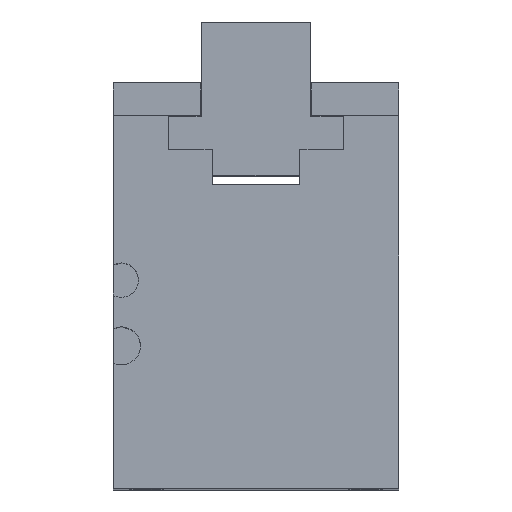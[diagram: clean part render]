
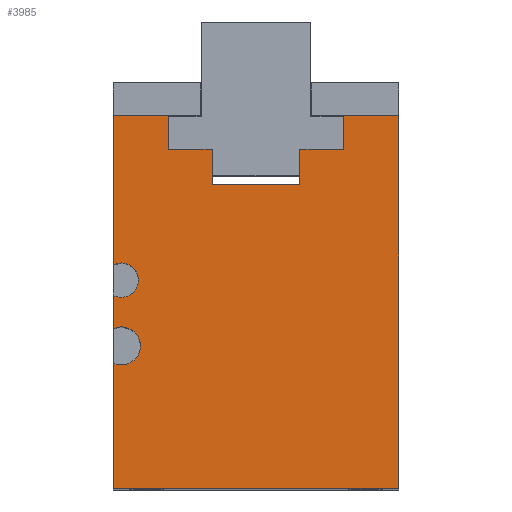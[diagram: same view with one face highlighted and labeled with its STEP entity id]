
A CAD part, top view. The second image highlights one B-rep face of the part: STEP entity #3985.
In plain terms, the highlighted planar face has unit normal (0, 0, 1).
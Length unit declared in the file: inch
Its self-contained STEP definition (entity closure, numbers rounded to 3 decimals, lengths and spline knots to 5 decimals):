
#84 = DIRECTION ( 'NONE',  ( 0., -1., 0. ) ) ;
#87 = VERTEX_POINT ( 'NONE', #643 ) ;
#109 = ORIENTED_EDGE ( 'NONE', *, *, #804, .T. ) ;
#117 = EDGE_CURVE ( 'NONE', #2581, #285, #5005, .T. ) ;
#172 = VECTOR ( 'NONE', #5142, 39.37008 ) ;
#175 = CARTESIAN_POINT ( 'NONE',  ( 0.045, 0.8125, 0. ) ) ;
#222 = ORIENTED_EDGE ( 'NONE', *, *, #424, .T. ) ;
#251 = AXIS2_PLACEMENT_3D ( 'NONE', #2384, #4522, #4468 ) ;
#259 = AXIS2_PLACEMENT_3D ( 'NONE', #4287, #1878, #4684 ) ;
#284 = CIRCLE ( 'NONE', #3650, 0.10848 ) ;
#285 = VERTEX_POINT ( 'NONE', #3842 ) ;
#312 = VERTEX_POINT ( 'NONE', #3535 ) ;
#359 = CARTESIAN_POINT ( 'NONE',  ( 0., 0.71379, 0. ) ) ;
#361 = EDGE_CURVE ( 'NONE', #5003, #551, #3791, .T. ) ;
#424 = EDGE_CURVE ( 'NONE', #2958, #2407, #1176, .T. ) ;
#527 = CARTESIAN_POINT ( 'NONE',  ( 1.0625, 1.935, 0. ) ) ;
#551 = VERTEX_POINT ( 'NONE', #2442 ) ;
#565 = DIRECTION ( 'NONE',  ( -1., 0., 0. ) ) ;
#569 = CARTESIAN_POINT ( 'NONE',  ( 0.3125, 2.125, 0. ) ) ;
#595 = VECTOR ( 'NONE', #2717, 39.37008 ) ;
#622 = DIRECTION ( 'NONE',  ( 0., 0., -1. ) ) ;
#643 = CARTESIAN_POINT ( 'NONE',  ( 1.0625, 1.735, 0. ) ) ;
#704 = CARTESIAN_POINT ( 'NONE',  ( 0.3125, 1.935, 0. ) ) ;
#717 = EDGE_CURVE ( 'NONE', #551, #2585, #3170, .T. ) ;
#804 = EDGE_CURVE ( 'NONE', #312, #1319, #2891, .T. ) ;
#992 = VERTEX_POINT ( 'NONE', #4417 ) ;
#1086 = EDGE_LOOP ( 'NONE', ( #4313, #1305, #3034, #222, #2819, #2897, #3676, #2948, #5071, #1586, #2335, #3194, #2989, #5140, #1189, #4113, #109, #1639 ) ) ;
#1171 = VERTEX_POINT ( 'NONE', #5159 ) ;
#1176 = LINE ( 'NONE', #3653, #3161 ) ;
#1189 = ORIENTED_EDGE ( 'NONE', *, *, #117, .T. ) ;
#1207 = LINE ( 'NONE', #527, #4385 ) ;
#1254 = CARTESIAN_POINT ( 'NONE',  ( 0., 0., 0. ) ) ;
#1305 = ORIENTED_EDGE ( 'NONE', *, *, #1511, .T. ) ;
#1309 = VECTOR ( 'NONE', #1691, 39.37008 ) ;
#1319 = VERTEX_POINT ( 'NONE', #2939 ) ;
#1349 = DIRECTION ( 'NONE',  ( 0., -1., 0. ) ) ;
#1416 = VECTOR ( 'NONE', #3886, 39.37008 ) ;
#1511 = EDGE_CURVE ( 'NONE', #992, #1171, #4736, .T. ) ;
#1576 = CARTESIAN_POINT ( 'NONE',  ( 0., 0., 0. ) ) ;
#1586 = ORIENTED_EDGE ( 'NONE', *, *, #2492, .F. ) ;
#1596 = LINE ( 'NONE', #1823, #2282 ) ;
#1639 = ORIENTED_EDGE ( 'NONE', *, *, #4128, .T. ) ;
#1667 = CARTESIAN_POINT ( 'NONE',  ( 0.3125, 1.935, 0. ) ) ;
#1681 = VERTEX_POINT ( 'NONE', #4162 ) ;
#1691 = DIRECTION ( 'NONE',  ( 0., 1., 0. ) ) ;
#1744 = VECTOR ( 'NONE', #2012, 39.37008 ) ;
#1772 = DIRECTION ( 'NONE',  ( -1., 0., 0. ) ) ;
#1774 = CARTESIAN_POINT ( 'NONE',  ( 0., 0., 0. ) ) ;
#1795 = EDGE_CURVE ( 'NONE', #2746, #1681, #1596, .T. ) ;
#1823 = CARTESIAN_POINT ( 'NONE',  ( 0., 2.125, 0. ) ) ;
#1867 = FACE_OUTER_BOUND ( 'NONE', #1086, .T. ) ;
#1877 = LINE ( 'NONE', #1576, #3894 ) ;
#1878 = DIRECTION ( 'NONE',  ( 0., 0., -1. ) ) ;
#1925 = VECTOR ( 'NONE', #4997, 39.37008 ) ;
#1948 = EDGE_CURVE ( 'NONE', #285, #312, #3018, .T. ) ;
#1955 = VERTEX_POINT ( 'NONE', #3240 ) ;
#2012 = DIRECTION ( 'NONE',  ( 0., 1., 0. ) ) ;
#2026 = CARTESIAN_POINT ( 'NONE',  ( 0., 0., 0. ) ) ;
#2044 = DIRECTION ( 'NONE',  ( 1., 0., 0. ) ) ;
#2085 = DIRECTION ( 'NONE',  ( 1., 0., 0. ) ) ;
#2180 = PLANE ( 'NONE',  #2198 ) ;
#2198 = AXIS2_PLACEMENT_3D ( 'NONE', #1774, #622, #3399 ) ;
#2282 = VECTOR ( 'NONE', #1772, 39.37008 ) ;
#2335 = ORIENTED_EDGE ( 'NONE', *, *, #2397, .F. ) ;
#2349 = LINE ( 'NONE', #4081, #1309 ) ;
#2384 = CARTESIAN_POINT ( 'NONE',  ( 0.045, 1.1875, 0. ) ) ;
#2397 = EDGE_CURVE ( 'NONE', #2585, #87, #3811, .T. ) ;
#2407 = VERTEX_POINT ( 'NONE', #1254 ) ;
#2442 = CARTESIAN_POINT ( 'NONE',  ( 0.5625, 1.935, 0. ) ) ;
#2492 = EDGE_CURVE ( 'NONE', #87, #2830, #2349, .T. ) ;
#2564 = LINE ( 'NONE', #4725, #595 ) ;
#2581 = VERTEX_POINT ( 'NONE', #569 ) ;
#2583 = CARTESIAN_POINT ( 'NONE',  ( 0., 2.125, 0. ) ) ;
#2585 = VERTEX_POINT ( 'NONE', #4152 ) ;
#2686 = LINE ( 'NONE', #4415, #1744 ) ;
#2717 = DIRECTION ( 'NONE',  ( 1., 0., 0. ) ) ;
#2746 = VERTEX_POINT ( 'NONE', #3047 ) ;
#2819 = ORIENTED_EDGE ( 'NONE', *, *, #4739, .T. ) ;
#2830 = VERTEX_POINT ( 'NONE', #3115 ) ;
#2891 = CIRCLE ( 'NONE', #251, 0.09801 ) ;
#2897 = ORIENTED_EDGE ( 'NONE', *, *, #2975, .T. ) ;
#2920 = DIRECTION ( 'NONE',  ( 0., 0., -1. ) ) ;
#2939 = CARTESIAN_POINT ( 'NONE',  ( 0.14301, 1.1875, 0. ) ) ;
#2948 = ORIENTED_EDGE ( 'NONE', *, *, #5161, .F. ) ;
#2958 = VERTEX_POINT ( 'NONE', #359 ) ;
#2975 = EDGE_CURVE ( 'NONE', #5038, #2746, #4265, .T. ) ;
#2989 = ORIENTED_EDGE ( 'NONE', *, *, #361, .F. ) ;
#3003 = VERTEX_POINT ( 'NONE', #4344 ) ;
#3018 = LINE ( 'NONE', #2026, #3148 ) ;
#3034 = ORIENTED_EDGE ( 'NONE', *, *, #3912, .T. ) ;
#3047 = CARTESIAN_POINT ( 'NONE',  ( 1.625, 2.125, 0. ) ) ;
#3057 = EDGE_CURVE ( 'NONE', #1955, #992, #1877, .T. ) ;
#3115 = CARTESIAN_POINT ( 'NONE',  ( 1.0625, 1.935, 0. ) ) ;
#3129 = CARTESIAN_POINT ( 'NONE',  ( 0.3125, 2.125, 0. ) ) ;
#3148 = VECTOR ( 'NONE', #4834, 39.37008 ) ;
#3161 = VECTOR ( 'NONE', #84, 39.37008 ) ;
#3170 = LINE ( 'NONE', #4135, #3287 ) ;
#3194 = ORIENTED_EDGE ( 'NONE', *, *, #717, .F. ) ;
#3240 = CARTESIAN_POINT ( 'NONE',  ( 0., 1.10043, 0. ) ) ;
#3287 = VECTOR ( 'NONE', #1349, 39.37008 ) ;
#3384 = CIRCLE ( 'NONE', #259, 0.09801 ) ;
#3399 = DIRECTION ( 'NONE',  ( -1., 0., 0. ) ) ;
#3506 = AXIS2_PLACEMENT_3D ( 'NONE', #3781, #5002, #4945 ) ;
#3527 = CARTESIAN_POINT ( 'NONE',  ( 1.625, 0., 0. ) ) ;
#3535 = CARTESIAN_POINT ( 'NONE',  ( 0., 1.27457, 0. ) ) ;
#3650 = AXIS2_PLACEMENT_3D ( 'NONE', #175, #2920, #565 ) ;
#3653 = CARTESIAN_POINT ( 'NONE',  ( 0., 0., 0. ) ) ;
#3676 = ORIENTED_EDGE ( 'NONE', *, *, #1795, .T. ) ;
#3781 = CARTESIAN_POINT ( 'NONE',  ( 0.045, 0.8125, 0. ) ) ;
#3791 = LINE ( 'NONE', #704, #1416 ) ;
#3811 = LINE ( 'NONE', #4446, #3930 ) ;
#3842 = CARTESIAN_POINT ( 'NONE',  ( 0., 2.125, 0. ) ) ;
#3886 = DIRECTION ( 'NONE',  ( 1., 0., 0. ) ) ;
#3894 = VECTOR ( 'NONE', #4374, 39.37008 ) ;
#3912 = EDGE_CURVE ( 'NONE', #1171, #2958, #284, .T. ) ;
#3930 = VECTOR ( 'NONE', #2044, 39.37008 ) ;
#3933 = DIRECTION ( 'NONE',  ( 0., -1., 0. ) ) ;
#3942 = VECTOR ( 'NONE', #3933, 39.37008 ) ;
#3985 = ADVANCED_FACE ( 'NONE', ( #1867 ), #2180, .F. ) ;
#4063 = LINE ( 'NONE', #3129, #3942 ) ;
#4081 = CARTESIAN_POINT ( 'NONE',  ( 1.0625, 1.935, 0. ) ) ;
#4113 = ORIENTED_EDGE ( 'NONE', *, *, #1948, .T. ) ;
#4128 = EDGE_CURVE ( 'NONE', #1319, #1955, #3384, .T. ) ;
#4135 = CARTESIAN_POINT ( 'NONE',  ( 0.5625, 1.935, 0. ) ) ;
#4152 = CARTESIAN_POINT ( 'NONE',  ( 0.5625, 1.735, 0. ) ) ;
#4162 = CARTESIAN_POINT ( 'NONE',  ( 1.3125, 2.125, 0. ) ) ;
#4232 = EDGE_CURVE ( 'NONE', #2581, #5003, #4063, .T. ) ;
#4265 = LINE ( 'NONE', #3527, #172 ) ;
#4287 = CARTESIAN_POINT ( 'NONE',  ( 0.045, 1.1875, 0. ) ) ;
#4313 = ORIENTED_EDGE ( 'NONE', *, *, #3057, .T. ) ;
#4344 = CARTESIAN_POINT ( 'NONE',  ( 1.3125, 1.935, 0. ) ) ;
#4374 = DIRECTION ( 'NONE',  ( 0., -1., 0. ) ) ;
#4385 = VECTOR ( 'NONE', #2085, 39.37008 ) ;
#4415 = CARTESIAN_POINT ( 'NONE',  ( 1.3125, 2.125, 0. ) ) ;
#4417 = CARTESIAN_POINT ( 'NONE',  ( 0., 0.91121, 0. ) ) ;
#4446 = CARTESIAN_POINT ( 'NONE',  ( 0.5625, 1.735, 0. ) ) ;
#4468 = DIRECTION ( 'NONE',  ( -1., 0., 0. ) ) ;
#4522 = DIRECTION ( 'NONE',  ( 0., 0., -1. ) ) ;
#4684 = DIRECTION ( 'NONE',  ( -1., 0., 0. ) ) ;
#4725 = CARTESIAN_POINT ( 'NONE',  ( 0., 0., 0. ) ) ;
#4736 = CIRCLE ( 'NONE', #3506, 0.10848 ) ;
#4739 = EDGE_CURVE ( 'NONE', #2407, #5038, #2564, .T. ) ;
#4834 = DIRECTION ( 'NONE',  ( 0., -1., 0. ) ) ;
#4875 = CARTESIAN_POINT ( 'NONE',  ( 1.625, 0., 0. ) ) ;
#4945 = DIRECTION ( 'NONE',  ( -1., 0., 0. ) ) ;
#4997 = DIRECTION ( 'NONE',  ( -1., 0., 0. ) ) ;
#5002 = DIRECTION ( 'NONE',  ( 0., 0., -1. ) ) ;
#5003 = VERTEX_POINT ( 'NONE', #1667 ) ;
#5005 = LINE ( 'NONE', #2583, #1925 ) ;
#5038 = VERTEX_POINT ( 'NONE', #4875 ) ;
#5060 = EDGE_CURVE ( 'NONE', #2830, #3003, #1207, .T. ) ;
#5071 = ORIENTED_EDGE ( 'NONE', *, *, #5060, .F. ) ;
#5140 = ORIENTED_EDGE ( 'NONE', *, *, #4232, .F. ) ;
#5142 = DIRECTION ( 'NONE',  ( 0., 1., 0. ) ) ;
#5159 = CARTESIAN_POINT ( 'NONE',  ( 0.15348, 0.8125, 0. ) ) ;
#5161 = EDGE_CURVE ( 'NONE', #3003, #1681, #2686, .T. ) ;
